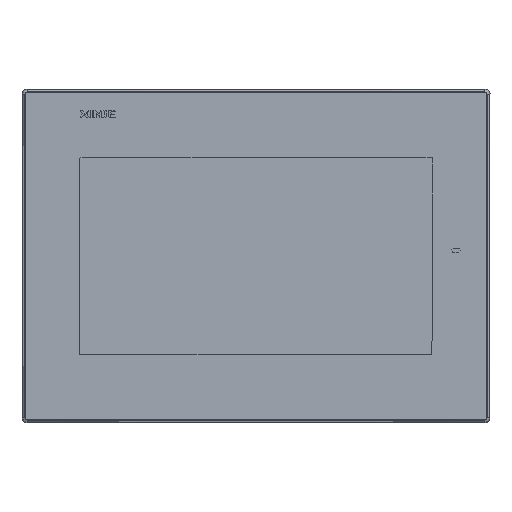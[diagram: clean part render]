
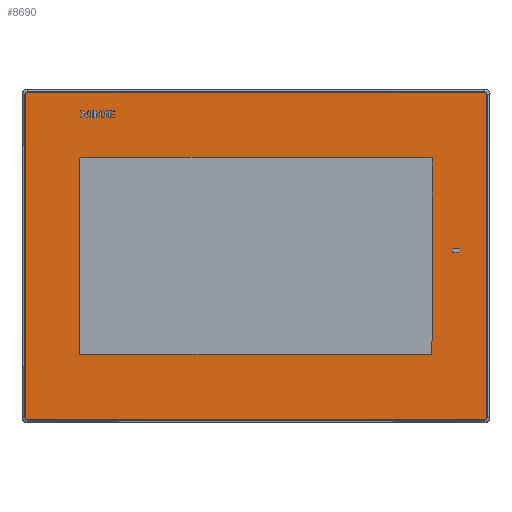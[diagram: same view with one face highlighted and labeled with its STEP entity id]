
A CAD part, front view. The second image highlights one B-rep face of the part: STEP entity #8690.
In plain terms, the highlighted planar face has unit normal (0, -1, 0) as drawn and (0, 0, 1) by its records, which use the part's own axes.
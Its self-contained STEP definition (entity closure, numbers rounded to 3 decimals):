
#1883=(
BOUNDED_CURVE()
B_SPLINE_CURVE(2,(#139919,#139920,#139921),.UNSPECIFIED.,.F.,.F.)
B_SPLINE_CURVE_WITH_KNOTS((3,3),(0.,0.864),.UNSPECIFIED.)
CURVE()
GEOMETRIC_REPRESENTATION_ITEM()
RATIONAL_B_SPLINE_CURVE((1.,0.707,1.))
REPRESENTATION_ITEM('')
);
#1884=(
BOUNDED_CURVE()
B_SPLINE_CURVE(2,(#139932,#139933,#139934),.UNSPECIFIED.,.F.,.F.)
B_SPLINE_CURVE_WITH_KNOTS((3,3),(0.,0.864),.UNSPECIFIED.)
CURVE()
GEOMETRIC_REPRESENTATION_ITEM()
RATIONAL_B_SPLINE_CURVE((1.,0.707,1.))
REPRESENTATION_ITEM('')
);
#1885=(
BOUNDED_CURVE()
B_SPLINE_CURVE(2,(#139941,#139942,#139943),.UNSPECIFIED.,.F.,.F.)
B_SPLINE_CURVE_WITH_KNOTS((3,3),(-0.864,0.),.UNSPECIFIED.)
CURVE()
GEOMETRIC_REPRESENTATION_ITEM()
RATIONAL_B_SPLINE_CURVE((1.,0.707,1.))
REPRESENTATION_ITEM('')
);
#1886=(
BOUNDED_CURVE()
B_SPLINE_CURVE(2,(#139944,#139945,#139946),.UNSPECIFIED.,.F.,.F.)
B_SPLINE_CURVE_WITH_KNOTS((3,3),(-0.864,0.),.UNSPECIFIED.)
CURVE()
GEOMETRIC_REPRESENTATION_ITEM()
RATIONAL_B_SPLINE_CURVE((1.,0.707,1.))
REPRESENTATION_ITEM('')
);
#8690=ADVANCED_FACE('',(#13320),#78586,.T.);
#13320=FACE_OUTER_BOUND('',#18143,.T.);
#18143=EDGE_LOOP('',(#35913,#35914,#35915,#35916,#35917,#35918,#35919,#35920));
#35913=ORIENTED_EDGE('',*,*,#53623,.F.);
#35914=ORIENTED_EDGE('',*,*,#53622,.T.);
#35915=ORIENTED_EDGE('',*,*,#53627,.F.);
#35916=ORIENTED_EDGE('',*,*,#53619,.T.);
#35917=ORIENTED_EDGE('',*,*,#53617,.F.);
#35918=ORIENTED_EDGE('',*,*,#53615,.T.);
#35919=ORIENTED_EDGE('',*,*,#53628,.F.);
#35920=ORIENTED_EDGE('',*,*,#53626,.T.);
#53615=EDGE_CURVE('',#73826,#73824,#64809,.T.);
#53617=EDGE_CURVE('',#73826,#73827,#1883,.T.);
#53619=EDGE_CURVE('',#73828,#73827,#64812,.T.);
#53622=EDGE_CURVE('',#73830,#73829,#64815,.T.);
#53623=EDGE_CURVE('',#73830,#73831,#1884,.T.);
#53626=EDGE_CURVE('',#73825,#73831,#64818,.T.);
#53627=EDGE_CURVE('',#73828,#73829,#1885,.T.);
#53628=EDGE_CURVE('',#73825,#73824,#1886,.T.);
#64809=B_SPLINE_CURVE_WITH_KNOTS('',1,(#139915,#139916),.UNSPECIFIED.,.F.,
 .F.,(2,2),(-142.788,0.),.UNSPECIFIED.);
#64812=B_SPLINE_CURVE_WITH_KNOTS('',1,(#139924,#139925),.UNSPECIFIED.,.F.,
 .F.,(2,2),(-201.781,0.),.UNSPECIFIED.);
#64815=B_SPLINE_CURVE_WITH_KNOTS('',1,(#139930,#139931),.UNSPECIFIED.,.F.,
 .F.,(2,2),(-142.788,0.),.UNSPECIFIED.);
#64818=B_SPLINE_CURVE_WITH_KNOTS('',1,(#139939,#139940),.UNSPECIFIED.,.F.,
 .F.,(2,2),(-201.781,0.),.UNSPECIFIED.);
#73824=VERTEX_POINT('',#114169);
#73825=VERTEX_POINT('',#114170);
#73826=VERTEX_POINT('',#114171);
#73827=VERTEX_POINT('',#114172);
#73828=VERTEX_POINT('',#114173);
#73829=VERTEX_POINT('',#114174);
#73830=VERTEX_POINT('',#114175);
#73831=VERTEX_POINT('',#114176);
#78586=PLANE('',#80964);
#80964=AXIS2_PLACEMENT_3D('',#108439,#83308,$);
#83308=DIRECTION('',(0.,0.,1.));
#108439=CARTESIAN_POINT('',(121.789,86.392,5.022));
#114169=CARTESIAN_POINT('',(101.441,71.393,5.022));
#114170=CARTESIAN_POINT('',(100.891,71.943,5.022));
#114171=CARTESIAN_POINT('',(101.441,-71.395,5.022));
#114172=CARTESIAN_POINT('',(100.891,-71.945,5.022));
#114173=CARTESIAN_POINT('',(-100.889,-71.945,5.022));
#114174=CARTESIAN_POINT('',(-101.439,-71.395,5.022));
#114175=CARTESIAN_POINT('',(-101.439,71.393,5.022));
#114176=CARTESIAN_POINT('',(-100.889,71.943,5.022));
#139915=CARTESIAN_POINT('',(101.441,-71.395,5.022));
#139916=CARTESIAN_POINT('',(101.441,71.393,5.022));
#139919=CARTESIAN_POINT('',(101.441,-71.395,5.022));
#139920=CARTESIAN_POINT('',(101.441,-71.945,5.022));
#139921=CARTESIAN_POINT('',(100.891,-71.945,5.022));
#139924=CARTESIAN_POINT('',(-100.889,-71.945,5.022));
#139925=CARTESIAN_POINT('',(100.891,-71.945,5.022));
#139930=CARTESIAN_POINT('',(-101.439,71.393,5.022));
#139931=CARTESIAN_POINT('',(-101.439,-71.395,5.022));
#139932=CARTESIAN_POINT('',(-101.439,71.393,5.022));
#139933=CARTESIAN_POINT('',(-101.439,71.943,5.022));
#139934=CARTESIAN_POINT('',(-100.889,71.943,5.022));
#139939=CARTESIAN_POINT('',(100.891,71.943,5.022));
#139940=CARTESIAN_POINT('',(-100.889,71.943,5.022));
#139941=CARTESIAN_POINT('',(-100.889,-71.945,5.022));
#139942=CARTESIAN_POINT('',(-101.439,-71.945,5.022));
#139943=CARTESIAN_POINT('',(-101.439,-71.395,5.022));
#139944=CARTESIAN_POINT('',(100.891,71.943,5.022));
#139945=CARTESIAN_POINT('',(101.441,71.943,5.022));
#139946=CARTESIAN_POINT('',(101.441,71.393,5.022));
